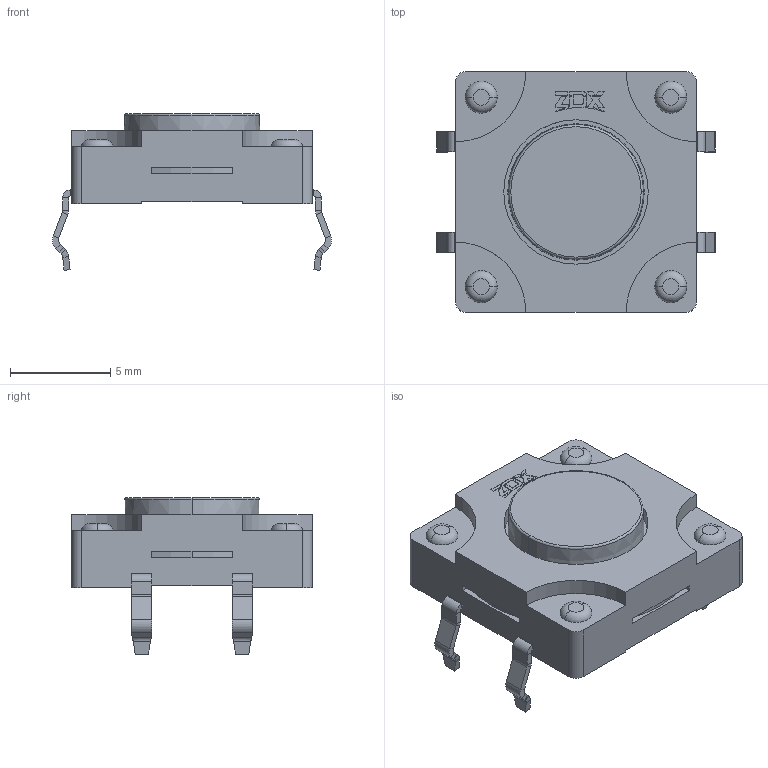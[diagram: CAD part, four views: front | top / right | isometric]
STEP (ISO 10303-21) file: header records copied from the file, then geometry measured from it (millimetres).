
FILE_DESCRIPTION((''),'2;1');
FILE_NAME('ASM0012_ASM','2024-01-04T',('WYH'),(''),'PRO/ENGINEER BY PARAMETRIC TECHNOLOGY CORPORATION, 2013040','PRO/ENGINEER BY PARAMETRIC TECHNOLOGY CORPORATION, 2013040','');
FILE_SCHEMA(('CONFIG_CONTROL_DESIGN'));
Length unit declared in the file: millimetre
Products named in the file (1): ASM0012_ASM
Bounding box: 13.91 x 12 x 7.81 mm (x, y, z)
Volume: 448.8 mm3; surface area: 1022.9 mm2
Topology: 1 solids, 8 shells, 407 faces, 956 edges, 586 vertices
Faces by surface type: plane 257, cylinder 98, torus 32, bspline 16, cone 4
Entity records: 12043 total; most frequent: CARTESIAN_POINT 2572, DIRECTION 1980, ORIENTED_EDGE 1912, EDGE_CURVE 956, VECTOR 666, LINE 666, AXIS2_PLACEMENT_3D 657, VERTEX_POINT 586
